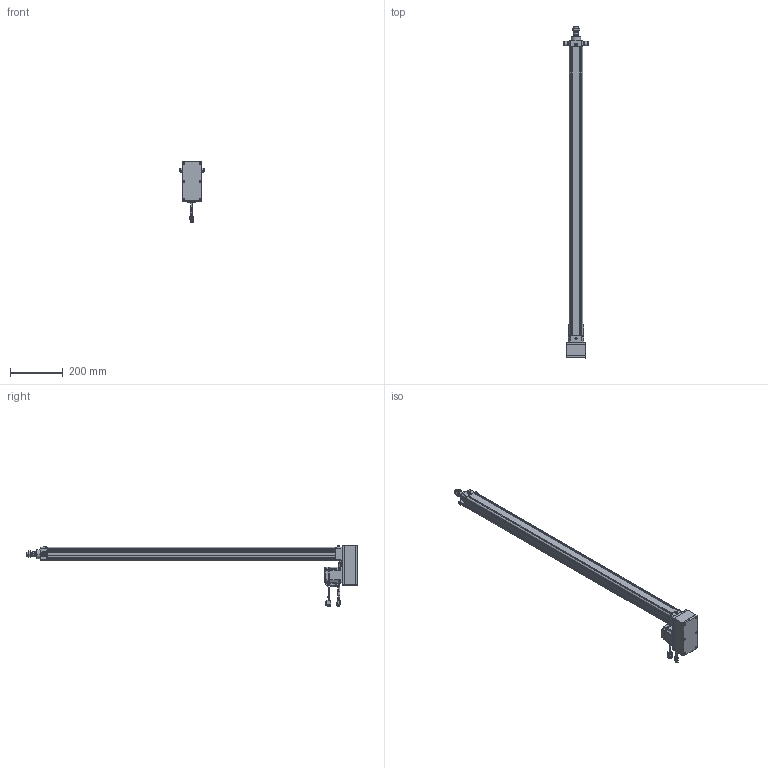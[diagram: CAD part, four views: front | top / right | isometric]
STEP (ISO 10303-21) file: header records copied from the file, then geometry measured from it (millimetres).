
FILE_DESCRIPTION((''),'2;1');
FILE_NAME('HE40-D-100_ASM','2020-05-26T',('ASUS20200'),(''),'CREO PARAMETRIC BY PTC INC, 2014190','CREO PARAMETRIC BY PTC INC, 2014190','');
FILE_SCHEMA(('CONFIG_CONTROL_DESIGN'));
Length unit declared in the file: millimetre
Products named in the file (33): HE40-D-P-001-X1; HE40-D-P-002-X1; HE40-D-P-003-X1; 6200ZZ; SLM-01; YZ-M6X1; JDB202820; HE40-P-010-X1-200W; _MHMF022L1A2; _CABLE_MOTOR_BOTTOM_03; _CABLE_MOTOR_TOP_03; _MOTOR_CONNECTOR_2; _CABLE_BRAKE_BOTTOM_03; _CABLE_BRAKE_TOP_03; _MHMF_CONNECTOR_9_PIN_A6; MHMF022L1A2M2_1_ASM; MHMF022L1A2M2_ASM; JX5X5X20; TD-5; M5X20; LM-M6X1; M6X25; LM-M6-15; M6; HE40-P-012-X2; HE40-P-014-X1; M4X65; HE40-TC; HE40-D-P-005-X1; HE40-D-P-004-X1; HE40-D-P-008-X1; LGLM-M6-22; HE40-D-100_ASM
Assembly tree (50 placements, depth 4):
  HE40-D-100_ASM
    HE40-D-P-001-X1
    HE40-D-P-002-X1
    HE40-D-P-003-X1
    6200ZZ
    SLM-01
    YZ-M6X1
    JDB202820
    HE40-P-010-X1-200W
    MHMF022L1A2M2_ASM
      MHMF022L1A2M2_1_ASM
        _MHMF022L1A2
        _CABLE_MOTOR_BOTTOM_03
        _CABLE_MOTOR_TOP_03
        _MOTOR_CONNECTOR_2
        _CABLE_BRAKE_BOTTOM_03
        _CABLE_BRAKE_TOP_03
        _MHMF_CONNECTOR_9_PIN_A6
    JX5X5X20
    TD-5  x4
    M5X20  x4
    LM-M6X1  x4
    M6X25
    LM-M6-15
    M6
    HE40-P-012-X2
    HE40-P-014-X1
    M4X65  x6
    HE40-TC  x2
    HE40-D-P-005-X1
    HE40-D-P-004-X1
    HE40-D-P-008-X1
    LGLM-M6-22  x4
Bounding box: 91 x 1257.5 x 232.7 mm (x, y, z)
Volume: 1805206.5 mm3; surface area: 731450 mm2
Topology: 48 solids, 77 shells, 2673 faces, 6400 edges, 3967 vertices
Faces by surface type: plane 1118, cylinder 763, cone 612, torus 142, sphere 34, bspline 4
Entity records: 68754 total; most frequent: CARTESIAN_POINT 13422, DIRECTION 12127, ORIENTED_EDGE 10832, EDGE_CURVE 5474, AXIS2_PLACEMENT_3D 4551, VERTEX_POINT 3433, VECTOR 3025, LINE 3025
